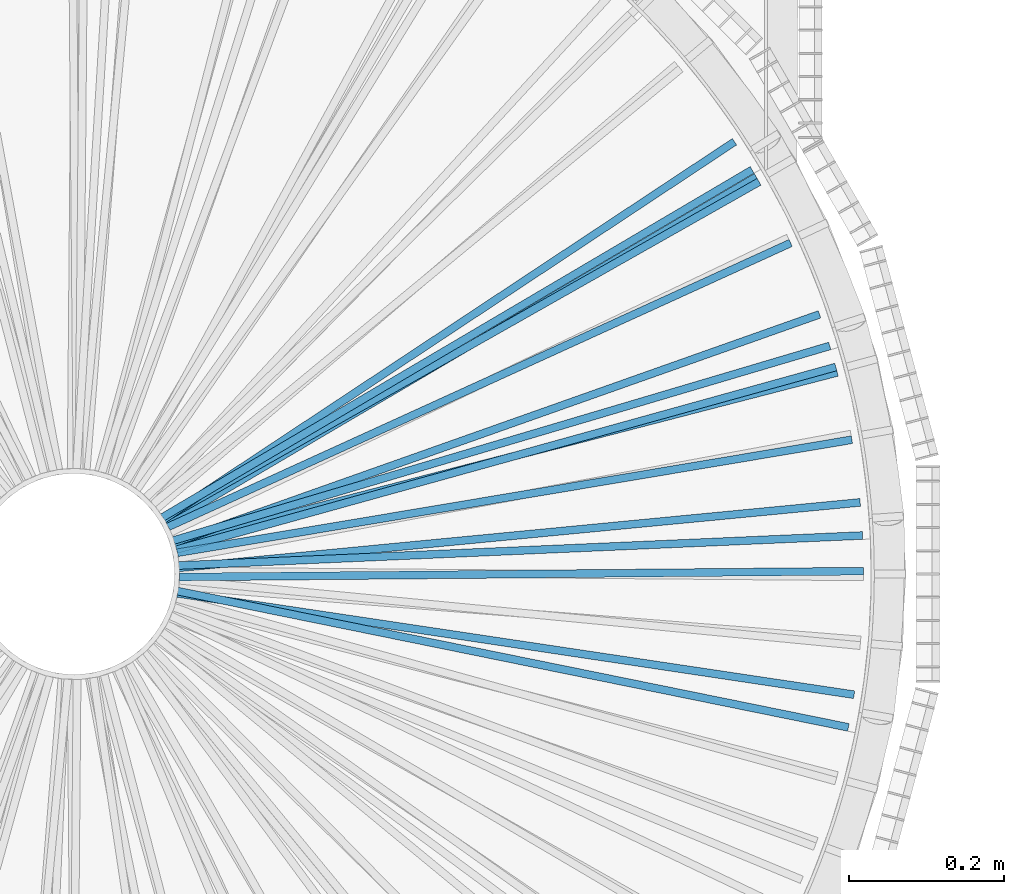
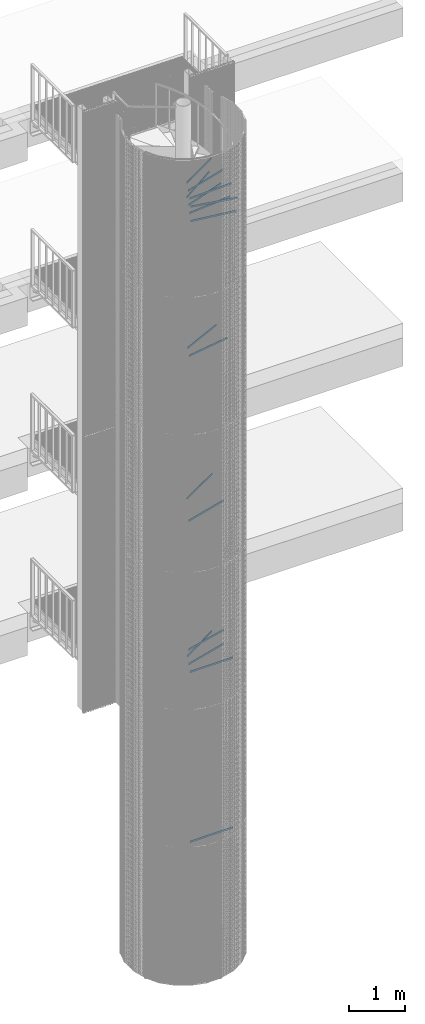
# One storey, part 315 of 1183: 17 beams, 4 elements without a shape of their own.
"""IFC2X3 building model written with IfcOpenShell, lengths in millimetres."""

from ifc_helpers import new_model, si_unit, frame, origin_with_axes, origin_2d_with_axis, place, context, subcontext, project, spatial, polyline, rectangle, outline, extrude, boolean, material, type_object, element, aggregate, save


model = new_model("IFC2X3")

# Units and contexts
model_context = context("Model", 3, precision=1e-05, world=origin_with_axes())
body_context = subcontext(model_context, "Body", "Model", "MODEL_VIEW")
ifc_project = project(units=[si_unit("LENGTHUNIT", "METRE", prefix="MILLI"), si_unit("AREAUNIT", "SQUARE_METRE"), si_unit("VOLUMEUNIT", "CUBIC_METRE"), si_unit("MASSUNIT", "GRAM", prefix="KILO"), si_unit("TIMEUNIT", "SECOND"), si_unit("PLANEANGLEUNIT", "RADIAN"), si_unit("SOLIDANGLEUNIT", "STERADIAN"), si_unit("THERMODYNAMICTEMPERATUREUNIT", "DEGREE_CELSIUS"), si_unit("LUMINOUSINTENSITYUNIT", "LUMEN")], contexts=[model_context])

# Site, building, storey
site_placement = place(None, origin_with_axes())
site = spatial("IfcSite", under=ifc_project, at=site_placement, Name="Undefined", CompositionType="ELEMENT")
building_placement = place(site_placement, origin_with_axes())
building = spatial("IfcBuilding", under=site, at=building_placement, Name="Undefined", CompositionType="ELEMENT")
storey_placement = place(building_placement, origin_with_axes())
storey = spatial("IfcBuildingStorey", under=building, at=storey_placement, Name="Undefined", CompositionType="ELEMENT", Elevation=0.0)

# Assembly, beams
assembly_1_placement = place(storey_placement, origin_with_axes())
assembly_1 = element("IfcElementAssembly", 1, at=assembly_1_placement, inside=storey, Name="POTEAU", AssemblyPlace="NOTDEFINED", PredefinedType="NOTDEFINED")
ifc_material = material(Name="STEEL/S235JR")
beam_type = type_object("IfcBeamType", Name="PL10*40", PredefinedType="NOTDEFINED")
beam_1_placement = place(assembly_1_placement, frame((82.1984248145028, 17.584512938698, 9283.36000000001), z_axis=(0.0, 0.0, 1.0), x_axis=(0.963699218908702, 0.266990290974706, 0.0)))
beam_1 = element("IfcBeam", 2, at=beam_1_placement, type_object=beam_type, material=ifc_material, Name="RAIDISSEUR", context=body_context, shape_type="CSG", body=[
    boolean("DIFFERENCE", extrude(rectangle(XDim=10.0, YDim=40.0, at=origin_2d_with_axis()), frame((935.982964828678, -2.59787459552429e-14, -3.63797880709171e-12), z_axis=(-1.0, 0.0, 0.0), x_axis=(0.0, -1.0, 0.0)), (0.0, 0.0, 1.0), 935.98), extrude(outline(polyline([(0.0, 0.0), (30.5663019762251, -4.91127138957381e-11), (60.366242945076, 6.80164206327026), (87.9055294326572, 20.0638634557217), (111.803226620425, 39.1216410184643), (130.861004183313, 63.0193382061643), (144.123225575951, 90.5586246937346), (150.9248676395, 120.358565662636), (150.924867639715, 150.924867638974), (144.123225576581, 180.724808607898), (130.86100418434, 208.264095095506), (111.803226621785, 232.161792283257), (87.9055294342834, 251.219569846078), (60.3662429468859, 264.481791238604), (30.5663019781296, 271.283433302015), (1.90266291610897e-09, 271.28343330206), (-29.7999409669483, 264.481791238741), (-57.3392274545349, 251.219569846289), (-81.2369246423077, 232.161792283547), (-100.294702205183, 208.26409509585), (-113.556923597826, 180.724808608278), (-120.35856566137, 150.92486763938), (-120.358565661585, 120.358565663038), (-113.556923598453, 90.5586246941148), (-100.294702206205, 63.0193382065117), (-81.2369246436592, 39.1216410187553), (-57.3392274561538, 20.0638634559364), (-29.7999409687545, 6.80164206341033), (0.0, 0.0)])), frame((-214.504930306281, 44.7123538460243, -22.5), z_axis=(0.0, 0.0, 1.0), x_axis=(-0.181982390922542, -0.983301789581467, 0.0)), (0.0, 0.0, 1.0), 45.0)),
])
beam_2_placement = place(assembly_1_placement, frame((70.5571919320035, 45.6889352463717, 9752.92000000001), z_axis=(0.0, 0.0, 1.0), x_axis=(0.870228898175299, 0.492647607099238, 0.0)))
beam_2 = element("IfcBeam", 3, at=beam_2_placement, type_object=beam_type, material=ifc_material, Name="RAIDISSEUR", context=body_context, shape_type="CSG", body=[
    boolean("DIFFERENCE", extrude(rectangle(XDim=10.0, YDim=40.0, at=origin_2d_with_axis()), frame((935.982964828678, -2.59787459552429e-14, -3.63797880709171e-12), z_axis=(-1.0, 0.0, 0.0), x_axis=(0.0, -1.0, 0.0)), (0.0, 0.0, 1.0), 935.98), extrude(outline(polyline([(0.0, 0.0), (30.5663019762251, -4.91127138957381e-11), (60.366242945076, 6.80164206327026), (87.9055294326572, 20.0638634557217), (111.803226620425, 39.1216410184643), (130.861004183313, 63.0193382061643), (144.123225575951, 90.5586246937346), (150.9248676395, 120.358565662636), (150.924867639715, 150.924867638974), (144.123225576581, 180.724808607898), (130.86100418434, 208.264095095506), (111.803226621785, 232.161792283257), (87.9055294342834, 251.219569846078), (60.3662429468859, 264.481791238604), (30.5663019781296, 271.283433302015), (1.90266291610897e-09, 271.28343330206), (-29.7999409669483, 264.481791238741), (-57.3392274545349, 251.219569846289), (-81.2369246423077, 232.161792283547), (-100.294702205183, 208.26409509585), (-113.556923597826, 180.724808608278), (-120.35856566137, 150.92486763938), (-120.358565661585, 120.358565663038), (-113.556923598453, 90.5586246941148), (-100.294702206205, 63.0193382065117), (-81.2369246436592, 39.1216410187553), (-57.3392274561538, 20.0638634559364), (-29.7999409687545, 6.80164206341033), (0.0, 0.0)])), frame((-200.98227636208, 65.186920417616, -22.5), z_axis=(0.0, 0.0, 1.0), x_axis=(-0.414927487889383, -0.909854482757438, 0.0)), (0.0, 0.0, 1.0), 45.0)),
])
aggregate(assembly_1, [beam_1, beam_2])

assembly_2_placement = place(storey_placement, origin_with_axes())
assembly_2 = element("IfcElementAssembly", 4, at=assembly_2_placement, inside=storey, Name="POTEAU", AssemblyPlace="NOTDEFINED", PredefinedType="NOTDEFINED")
beam_3_placement = place(assembly_2_placement, frame((79.978180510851, 25.8705774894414, 6465.84000000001), z_axis=(0.0, 0.0, 1.0), x_axis=(0.968083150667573, 0.250629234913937, 0.0)))
beam_3 = element("IfcBeam", 5, at=beam_3_placement, type_object=beam_type, material=ifc_material, Name="RAIDISSEUR", context=body_context, shape_type="CSG", body=[
    boolean("DIFFERENCE", extrude(rectangle(XDim=10.0, YDim=40.0, at=origin_2d_with_axis()), frame((935.982964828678, -2.59787459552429e-14, -3.63797880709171e-12), z_axis=(-1.0, 0.0, 0.0), x_axis=(0.0, -1.0, 0.0)), (0.0, 0.0, 1.0), 935.98), extrude(outline(polyline([(0.0, 0.0), (30.5663019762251, -4.91127138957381e-11), (60.366242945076, 6.80164206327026), (87.9055294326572, 20.0638634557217), (111.803226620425, 39.1216410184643), (130.861004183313, 63.0193382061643), (144.123225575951, 90.5586246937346), (150.9248676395, 120.358565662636), (150.924867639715, 150.924867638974), (144.123225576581, 180.724808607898), (130.86100418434, 208.264095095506), (111.803226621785, 232.161792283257), (87.9055294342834, 251.219569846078), (60.3662429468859, 264.481791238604), (30.5663019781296, 271.283433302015), (1.90266291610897e-09, 271.28343330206), (-29.7999409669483, 264.481791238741), (-57.3392274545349, 251.219569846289), (-81.2369246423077, 232.161792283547), (-100.294702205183, 208.26409509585), (-113.556923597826, 180.724808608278), (-120.35856566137, 150.92486763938), (-120.358565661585, 120.358565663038), (-113.556923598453, 90.5586246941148), (-100.294702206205, 63.0193382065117), (-81.2369246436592, 39.1216410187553), (-57.3392274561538, 20.0638634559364), (-29.7999409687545, 6.80164206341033), (0.0, 0.0)])), frame((-215.15882831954, 32.4946825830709, -22.5), z_axis=(0.0, 0.0, 1.0), x_axis=(-0.165301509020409, -0.986243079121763, 0.0)), (0.0, 0.0, 1.0), 45.0)),
])
beam_4_placement = place(assembly_2_placement, frame((83.9487882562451, -4.28918262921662, 2293.8), z_axis=(0.0, 0.0, 1.0), x_axis=(0.99996413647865, 0.00846910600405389, 0.0)))
beam_4 = element("IfcBeam", 6, at=beam_4_placement, type_object=beam_type, material=ifc_material, Name="RAIDISSEUR", context=body_context, shape_type="CSG", body=[
    boolean("DIFFERENCE", extrude(rectangle(XDim=10.0, YDim=40.0, at=origin_2d_with_axis()), frame((935.982964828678, -2.59787459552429e-14, -3.63797880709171e-12), z_axis=(-1.0, 0.0, 0.0), x_axis=(0.0, -1.0, 0.0)), (0.0, 0.0, 1.0), 935.98), extrude(outline(polyline([(0.0, 0.0), (30.5663019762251, -4.91127138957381e-11), (60.366242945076, 6.80164206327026), (87.9055294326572, 20.0638634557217), (111.803226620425, 39.1216410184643), (130.861004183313, 63.0193382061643), (144.123225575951, 90.5586246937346), (150.9248676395, 120.358565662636), (150.924867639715, 150.924867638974), (144.123225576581, 180.724808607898), (130.86100418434, 208.264095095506), (111.803226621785, 232.161792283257), (87.9055294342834, 251.219569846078), (60.3662429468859, 264.481791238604), (30.5663019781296, 271.283433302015), (1.90266291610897e-09, 271.28343330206), (-29.7999409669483, 264.481791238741), (-57.3392274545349, 251.219569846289), (-81.2369246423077, 232.161792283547), (-100.294702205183, 208.26409509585), (-113.556923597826, 180.724808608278), (-120.35856566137, 150.92486763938), (-120.358565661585, 120.358565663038), (-113.556923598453, 90.5586246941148), (-100.294702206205, 63.0193382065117), (-81.2369246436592, 39.1216410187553), (-57.3392274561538, 20.0638634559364), (-29.7999409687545, 6.80164206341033), (0.0, 0.0)])), frame((-220.333310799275, 9.55859125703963, -22.5000000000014), z_axis=(0.0, 0.0, 1.0), x_axis=(0.0787157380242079, -0.996897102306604, 0.0)), (0.0, 0.0, 1.0), 45.0)),
])
beam_5_placement = place(assembly_2_placement, frame((83.9487882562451, -4.28918262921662, 6002.28000000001), z_axis=(0.0, 0.0, 1.0), x_axis=(0.99996413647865, 0.00846910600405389, 0.0)))
beam_5 = element("IfcBeam", 7, at=beam_5_placement, type_object=beam_type, material=ifc_material, Name="RAIDISSEUR", context=body_context, shape_type="CSG", body=[
    boolean("DIFFERENCE", extrude(rectangle(XDim=10.0, YDim=40.0, at=origin_2d_with_axis()), frame((935.982964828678, -2.59787459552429e-14, -3.63797880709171e-12), z_axis=(-1.0, 0.0, 0.0), x_axis=(0.0, -1.0, 0.0)), (0.0, 0.0, 1.0), 935.98), extrude(outline(polyline([(0.0, 0.0), (30.5663019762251, -4.91127138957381e-11), (60.366242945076, 6.80164206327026), (87.9055294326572, 20.0638634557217), (111.803226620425, 39.1216410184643), (130.861004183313, 63.0193382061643), (144.123225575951, 90.5586246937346), (150.9248676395, 120.358565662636), (150.924867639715, 150.924867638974), (144.123225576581, 180.724808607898), (130.86100418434, 208.264095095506), (111.803226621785, 232.161792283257), (87.9055294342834, 251.219569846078), (60.3662429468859, 264.481791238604), (30.5663019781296, 271.283433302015), (1.90266291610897e-09, 271.28343330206), (-29.7999409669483, 264.481791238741), (-57.3392274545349, 251.219569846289), (-81.2369246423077, 232.161792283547), (-100.294702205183, 208.26409509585), (-113.556923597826, 180.724808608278), (-120.35856566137, 150.92486763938), (-120.358565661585, 120.358565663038), (-113.556923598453, 90.5586246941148), (-100.294702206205, 63.0193382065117), (-81.2369246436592, 39.1216410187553), (-57.3392274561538, 20.0638634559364), (-29.7999409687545, 6.80164206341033), (0.0, 0.0)])), frame((-220.333310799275, 9.55859125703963, -22.5000000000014), z_axis=(0.0, 0.0, 1.0), x_axis=(0.0787157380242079, -0.996897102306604, 0.0)), (0.0, 0.0, 1.0), 45.0)),
])
beam_6_placement = place(assembly_2_placement, frame((74.8463745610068, 38.2598530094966, 6311.32000000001), z_axis=(0.0, 0.0, 1.0), x_axis=(0.861759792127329, 0.507316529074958, 0.0)))
beam_6 = element("IfcBeam", 8, at=beam_6_placement, type_object=beam_type, material=ifc_material, Name="RAIDISSEUR", context=body_context, shape_type="CSG", body=[
    boolean("DIFFERENCE", extrude(rectangle(XDim=10.0, YDim=40.0, at=origin_2d_with_axis()), frame((935.982964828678, -2.59787459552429e-14, -3.63797880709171e-12), z_axis=(-1.0, 0.0, 0.0), x_axis=(0.0, -1.0, 0.0)), (0.0, 0.0, 1.0), 935.98), extrude(outline(polyline([(0.0, 0.0), (30.5663019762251, -4.91127138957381e-11), (60.366242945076, 6.80164206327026), (87.9055294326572, 20.0638634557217), (111.803226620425, 39.1216410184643), (130.861004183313, 63.0193382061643), (144.123225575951, 90.5586246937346), (150.9248676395, 120.358565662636), (150.924867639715, 150.924867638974), (144.123225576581, 180.724808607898), (130.86100418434, 208.264095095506), (111.803226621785, 232.161792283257), (87.9055294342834, 251.219569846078), (60.3662429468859, 264.481791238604), (30.5663019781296, 271.283433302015), (1.90266291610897e-09, 271.28343330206), (-29.7999409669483, 264.481791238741), (-57.3392274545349, 251.219569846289), (-81.2369246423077, 232.161792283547), (-100.294702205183, 208.26409509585), (-113.556923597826, 180.724808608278), (-120.35856566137, 150.92486763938), (-120.358565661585, 120.358565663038), (-113.556923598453, 90.5586246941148), (-100.294702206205, 63.0193382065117), (-81.2369246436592, 39.1216410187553), (-57.3392274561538, 20.0638634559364), (-29.7999409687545, 6.80164206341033), (0.0, 0.0)])), frame((-199.776683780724, 77.1597851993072, -22.4999999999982), z_axis=(0.0, 0.0, 1.0), x_axis=(-0.430278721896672, -0.902696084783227, 0.0)), (0.0, 0.0, 1.0), 45.0)),
])
beam_7_placement = place(assembly_2_placement, frame((82.1984248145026, 17.5845129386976, 6156.80000000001), z_axis=(0.0, 0.0, 1.0), x_axis=(0.963699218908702, 0.266990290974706, 0.0)))
beam_7 = element("IfcBeam", 9, at=beam_7_placement, type_object=beam_type, material=ifc_material, Name="RAIDISSEUR", context=body_context, shape_type="CSG", body=[
    boolean("DIFFERENCE", extrude(rectangle(XDim=10.0, YDim=40.0, at=origin_2d_with_axis()), frame((935.982964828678, -2.59787459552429e-14, -3.63797880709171e-12), z_axis=(-1.0, 0.0, 0.0), x_axis=(0.0, -1.0, 0.0)), (0.0, 0.0, 1.0), 935.98), extrude(outline(polyline([(0.0, 0.0), (30.5663019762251, -4.91127138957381e-11), (60.366242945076, 6.80164206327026), (87.9055294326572, 20.0638634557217), (111.803226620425, 39.1216410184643), (130.861004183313, 63.0193382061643), (144.123225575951, 90.5586246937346), (150.9248676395, 120.358565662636), (150.924867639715, 150.924867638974), (144.123225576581, 180.724808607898), (130.86100418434, 208.264095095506), (111.803226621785, 232.161792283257), (87.9055294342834, 251.219569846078), (60.3662429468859, 264.481791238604), (30.5663019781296, 271.283433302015), (1.90266291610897e-09, 271.28343330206), (-29.7999409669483, 264.481791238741), (-57.3392274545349, 251.219569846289), (-81.2369246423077, 232.161792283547), (-100.294702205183, 208.26409509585), (-113.556923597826, 180.724808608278), (-120.35856566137, 150.92486763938), (-120.358565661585, 120.358565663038), (-113.556923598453, 90.5586246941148), (-100.294702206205, 63.0193382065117), (-81.2369246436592, 39.1216410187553), (-57.3392274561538, 20.0638634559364), (-29.7999409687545, 6.80164206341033), (0.0, 0.0)])), frame((-214.504930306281, 44.7123538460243, -22.5), z_axis=(0.0, 0.0, 1.0), x_axis=(-0.181982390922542, -0.983301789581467, 0.0)), (0.0, 0.0, 1.0), 45.0)),
])
aggregate(assembly_2, [beam_3, beam_4, beam_5, beam_6, beam_7])

assembly_3_placement = place(storey_placement, origin_with_axes())
assembly_3 = element("IfcElementAssembly", 10, at=assembly_3_placement, inside=storey, Name="POTEAU", AssemblyPlace="NOTDEFINED", PredefinedType="NOTDEFINED")
beam_8_placement = place(assembly_3_placement, frame((82.2442633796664, -17.3688594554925, 15857.28), z_axis=(0.0, 0.0, 1.0), x_axis=(0.988977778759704, -0.148064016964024, 0.0)))
beam_8 = element("IfcBeam", 11, at=beam_8_placement, type_object=beam_type, material=ifc_material, Name="RAIDISSEUR", context=body_context, shape_type="CSG", body=[
    boolean("DIFFERENCE", extrude(rectangle(XDim=10.0, YDim=40.0, at=origin_2d_with_axis()), frame((935.982964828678, -2.59787459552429e-14, -3.63797880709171e-12), z_axis=(-1.0, 0.0, 0.0), x_axis=(0.0, -1.0, 0.0)), (0.0, 0.0, 1.0), 935.98), extrude(outline(polyline([(0.0, 0.0), (30.5663019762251, -4.91127138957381e-11), (60.366242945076, 6.80164206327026), (87.9055294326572, 20.0638634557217), (111.803226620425, 39.1216410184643), (130.861004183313, 63.0193382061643), (144.123225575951, 90.5586246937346), (150.9248676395, 120.358565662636), (150.924867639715, 150.924867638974), (144.123225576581, 180.724808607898), (130.86100418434, 208.264095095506), (111.803226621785, 232.161792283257), (87.9055294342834, 251.219569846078), (60.3662429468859, 264.481791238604), (30.5663019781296, 271.283433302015), (1.90266291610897e-09, 271.28343330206), (-29.7999409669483, 264.481791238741), (-57.3392274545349, 251.219569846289), (-81.2369246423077, 232.161792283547), (-100.294702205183, 208.26409509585), (-113.556923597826, 180.724808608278), (-120.35856566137, 150.92486763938), (-120.358565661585, 120.358565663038), (-113.556923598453, 90.5586246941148), (-100.294702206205, 63.0193382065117), (-81.2369246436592, 39.1216410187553), (-57.3392274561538, 20.0638634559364), (-29.7999409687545, 6.80164206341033), (0.0, 0.0)])), frame((-219.366827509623, -11.8389258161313, -22.5000000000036), z_axis=(0.0, 0.0, 1.0), x_axis=(0.233695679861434, -0.972309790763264, 0.0)), (0.0, 0.0, 1.0), 45.0)),
])
beam_9_placement = place(assembly_3_placement, frame((72.7414342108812, 42.1245757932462, 16326.84), z_axis=(0.0, 0.0, 1.0), x_axis=(0.83402788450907, 0.551722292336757, 0.0)))
beam_9 = element("IfcBeam", 12, at=beam_9_placement, type_object=beam_type, material=ifc_material, Name="RAIDISSEUR", context=body_context, shape_type="CSG", body=[
    boolean("DIFFERENCE", extrude(rectangle(XDim=10.0, YDim=40.0, at=origin_2d_with_axis()), frame((935.982964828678, -2.59787459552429e-14, -3.63797880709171e-12), z_axis=(-1.0, 0.0, 0.0), x_axis=(0.0, -1.0, 0.0)), (0.0, 0.0, 1.0), 935.98), extrude(outline(polyline([(0.0, 0.0), (30.5663019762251, -4.91127138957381e-11), (60.366242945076, 6.80164206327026), (87.9055294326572, 20.0638634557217), (111.803226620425, 39.1216410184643), (130.861004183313, 63.0193382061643), (144.123225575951, 90.5586246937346), (150.9248676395, 120.358565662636), (150.924867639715, 150.924867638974), (144.123225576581, 180.724808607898), (130.86100418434, 208.264095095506), (111.803226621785, 232.161792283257), (87.9055294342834, 251.219569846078), (60.3662429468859, 264.481791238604), (30.5663019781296, 271.283433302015), (1.90266291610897e-09, 271.28343330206), (-29.7999409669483, 264.481791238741), (-57.3392274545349, 251.219569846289), (-81.2369246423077, 232.161792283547), (-100.294702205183, 208.26409509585), (-113.556923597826, 180.724808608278), (-120.35856566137, 150.92486763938), (-120.358565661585, 120.358565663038), (-113.556923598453, 90.5586246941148), (-100.294702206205, 63.0193382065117), (-81.2369246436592, 39.1216410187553), (-57.3392274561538, 20.0638634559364), (-29.7999409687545, 6.80164206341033), (0.0, 0.0)])), frame((-195.841340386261, 83.124915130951, -22.5), z_axis=(0.0, 0.0, 1.0), x_axis=(-0.476932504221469, -0.878939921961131, 0.0)), (0.0, 0.0, 1.0), 45.0)),
])
beam_10_placement = place(assembly_3_placement, frame((79.0265898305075, 28.6460160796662, 16483.36), z_axis=(0.0, 0.0, 1.0), x_axis=(0.958746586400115, 0.284262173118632, 0.0)))
beam_10 = element("IfcBeam", 13, at=beam_10_placement, type_object=beam_type, material=ifc_material, Name="RAIDISSEUR", context=body_context, shape_type="CSG", body=[
    boolean("DIFFERENCE", extrude(rectangle(XDim=10.0, YDim=40.0, at=origin_2d_with_axis()), frame((935.982964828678, -2.59787459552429e-14, -3.63797880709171e-12), z_axis=(-1.0, 0.0, 0.0), x_axis=(0.0, -1.0, 0.0)), (0.0, 0.0, 1.0), 935.98), extrude(outline(polyline([(0.0, 0.0), (30.5663019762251, -4.91127138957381e-11), (60.366242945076, 6.80164206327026), (87.9055294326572, 20.0638634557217), (111.803226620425, 39.1216410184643), (130.861004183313, 63.0193382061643), (144.123225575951, 90.5586246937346), (150.9248676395, 120.358565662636), (150.924867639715, 150.924867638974), (144.123225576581, 180.724808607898), (130.86100418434, 208.264095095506), (111.803226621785, 232.161792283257), (87.9055294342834, 251.219569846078), (60.3662429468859, 264.481791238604), (30.5663019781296, 271.283433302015), (1.90266291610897e-09, 271.28343330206), (-29.7999409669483, 264.481791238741), (-57.3392274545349, 251.219569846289), (-81.2369246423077, 232.161792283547), (-100.294702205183, 208.26409509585), (-113.556923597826, 180.724808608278), (-120.35856566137, 150.92486763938), (-120.358565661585, 120.358565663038), (-113.556923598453, 90.5586246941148), (-100.294702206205, 63.0193382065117), (-81.2369246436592, 39.1216410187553), (-57.3392274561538, 20.0638634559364), (-29.7999409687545, 6.80164206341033), (0.0, 0.0)])), frame((-213.770329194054, 37.052379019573, -22.5), z_axis=(0.0, 0.0, 1.0), x_axis=(-0.199620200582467, -0.979873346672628, 0.0)), (0.0, 0.0, 1.0), 45.0)),
])
beam_11_placement = place(assembly_3_placement, frame((83.6092608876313, 8.67684456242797, 16326.84), z_axis=(0.0, 0.0, 1.0), x_axis=(0.999036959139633, 0.0438765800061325, 0.0)))
beam_11 = element("IfcBeam", 14, at=beam_11_placement, type_object=beam_type, material=ifc_material, Name="RAIDISSEUR", context=body_context, shape_type="CSG", body=[
    boolean("DIFFERENCE", extrude(rectangle(XDim=10.0, YDim=40.0, at=origin_2d_with_axis()), frame((935.982964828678, -2.59787459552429e-14, -3.63797880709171e-12), z_axis=(-1.0, 0.0, 0.0), x_axis=(0.0, -1.0, 0.0)), (0.0, 0.0, 1.0), 935.98), extrude(outline(polyline([(0.0, 0.0), (30.5663019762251, -4.91127138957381e-11), (60.366242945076, 6.80164206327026), (87.9055294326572, 20.0638634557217), (111.803226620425, 39.1216410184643), (130.861004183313, 63.0193382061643), (144.123225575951, 90.5586246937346), (150.9248676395, 120.358565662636), (150.924867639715, 150.924867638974), (144.123225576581, 180.724808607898), (130.86100418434, 208.264095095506), (111.803226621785, 232.161792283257), (87.9055294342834, 251.219569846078), (60.3662429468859, 264.481791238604), (30.5663019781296, 271.283433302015), (1.90266291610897e-09, 271.28343330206), (-29.7999409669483, 264.481791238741), (-57.3392274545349, 251.219569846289), (-81.2369246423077, 232.161792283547), (-100.294702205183, 208.26409509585), (-113.556923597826, 180.724808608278), (-120.35856566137, 150.92486763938), (-120.358565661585, 120.358565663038), (-113.556923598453, 90.5586246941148), (-100.294702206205, 63.0193382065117), (-81.2369246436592, 39.1216410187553), (-57.3392274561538, 20.0638634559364), (-29.7999409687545, 6.80164206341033), (0.0, 0.0)])), frame((-220.08629739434, 4.3870540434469, -22.4999999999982), z_axis=(0.0, 0.0, 1.0), x_axis=(0.0433621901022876, -0.999059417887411, 0.0)), (0.0, 0.0, 1.0), 45.0)),
])
beam_12_placement = place(assembly_3_placement, frame((80.7715599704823, 23.2755502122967, 16170.32), z_axis=(0.0, 0.0, 1.0), x_axis=(0.942727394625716, 0.333564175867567, 0.0)))
beam_12 = element("IfcBeam", 15, at=beam_12_placement, type_object=beam_type, material=ifc_material, Name="RAIDISSEUR", context=body_context, shape_type="CSG", body=[
    boolean("DIFFERENCE", extrude(rectangle(XDim=10.0, YDim=40.0, at=origin_2d_with_axis()), frame((935.982964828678, -2.59787459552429e-14, -3.63797880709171e-12), z_axis=(-1.0, 0.0, 0.0), x_axis=(0.0, -1.0, 0.0)), (0.0, 0.0, 1.0), 935.98), extrude(outline(polyline([(0.0, 0.0), (30.5663019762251, -4.91127138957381e-11), (60.366242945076, 6.80164206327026), (87.9055294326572, 20.0638634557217), (111.803226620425, 39.1216410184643), (130.861004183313, 63.0193382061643), (144.123225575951, 90.5586246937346), (150.9248676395, 120.358565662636), (150.924867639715, 150.924867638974), (144.123225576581, 180.724808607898), (130.86100418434, 208.264095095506), (111.803226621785, 232.161792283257), (87.9055294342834, 251.219569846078), (60.3662429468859, 264.481791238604), (30.5663019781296, 271.283433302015), (1.90266291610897e-09, 271.28343330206), (-29.7999409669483, 264.481791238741), (-57.3392274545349, 251.219569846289), (-81.2369246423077, 232.161792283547), (-100.294702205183, 208.26409509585), (-113.556923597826, 180.724808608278), (-120.35856566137, 150.92486763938), (-120.358565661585, 120.358565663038), (-113.556923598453, 90.5586246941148), (-100.294702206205, 63.0193382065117), (-81.2369246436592, 39.1216410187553), (-57.3392274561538, 20.0638634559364), (-29.7999409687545, 6.80164206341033), (0.0, 0.0)])), frame((-211.416612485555, 53.7254967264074, -22.4999999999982), z_axis=(0.0, 0.0, 1.0), x_axis=(-0.250130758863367, -0.968212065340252, 0.0)), (0.0, 0.0, 1.0), 45.0)),
])
beam_13_placement = place(assembly_3_placement, frame((69.74906386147, 46.9133693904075, 16639.88), z_axis=(0.0, 0.0, 1.0), x_axis=(0.861498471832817, 0.507760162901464, 0.0)))
beam_13 = element("IfcBeam", 16, at=beam_13_placement, type_object=beam_type, material=ifc_material, Name="RAIDISSEUR", context=body_context, shape_type="CSG", body=[
    boolean("DIFFERENCE", extrude(rectangle(XDim=10.0, YDim=40.0, at=origin_2d_with_axis()), frame((935.982964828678, -2.59787459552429e-14, -3.63797880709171e-12), z_axis=(-1.0, 0.0, 0.0), x_axis=(0.0, -1.0, 0.0)), (0.0, 0.0, 1.0), 935.98), extrude(outline(polyline([(0.0, 0.0), (30.5663019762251, -4.91127138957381e-11), (60.366242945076, 6.80164206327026), (87.9055294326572, 20.0638634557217), (111.803226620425, 39.1216410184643), (130.861004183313, 63.0193382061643), (144.123225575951, 90.5586246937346), (150.9248676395, 120.358565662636), (150.924867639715, 150.924867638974), (144.123225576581, 180.724808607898), (130.86100418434, 208.264095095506), (111.803226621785, 232.161792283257), (87.9055294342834, 251.219569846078), (60.3662429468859, 264.481791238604), (30.5663019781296, 271.283433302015), (1.90266291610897e-09, 271.28343330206), (-29.7999409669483, 264.481791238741), (-57.3392274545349, 251.219569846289), (-81.2369246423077, 232.161792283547), (-100.294702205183, 208.26409509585), (-113.556923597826, 180.724808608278), (-120.35856566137, 150.92486763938), (-120.358565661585, 120.358565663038), (-113.556923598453, 90.5586246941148), (-100.294702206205, 63.0193382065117), (-81.2369246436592, 39.1216410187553), (-57.3392274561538, 20.0638634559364), (-29.7999409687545, 6.80164206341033), (0.0, 0.0)])), frame((-199.739514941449, 67.2194331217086, -22.5), z_axis=(0.0, 0.0, 1.0), x_axis=(-0.430743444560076, -0.902474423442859, 0.0)), (0.0, 0.0, 1.0), 45.0)),
])
beam_14_placement = place(assembly_3_placement, frame((84.003164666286, 3.04375799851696, 16013.8), z_axis=(0.0, 0.0, 1.0), x_axis=(0.995420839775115, 0.0955894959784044, 0.0)))
beam_14 = element("IfcBeam", 17, at=beam_14_placement, type_object=beam_type, material=ifc_material, Name="RAIDISSEUR", context=body_context, shape_type="CSG", body=[
    boolean("DIFFERENCE", extrude(rectangle(XDim=10.0, YDim=40.0, at=origin_2d_with_axis()), frame((935.982964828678, -2.59787459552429e-14, -3.63797880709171e-12), z_axis=(-1.0, 0.0, 0.0), x_axis=(0.0, -1.0, 0.0)), (0.0, 0.0, 1.0), 935.98), extrude(outline(polyline([(0.0, 0.0), (30.5663019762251, -4.91127138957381e-11), (60.366242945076, 6.80164206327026), (87.9055294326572, 20.0638634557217), (111.803226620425, 39.1216410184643), (130.861004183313, 63.0193382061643), (144.123225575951, 90.5586246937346), (150.9248676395, 120.358565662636), (150.924867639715, 150.924867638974), (144.123225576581, 180.724808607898), (130.86100418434, 208.264095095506), (111.803226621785, 232.161792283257), (87.9055294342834, 251.219569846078), (60.3662429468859, 264.481791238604), (30.5663019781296, 271.283433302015), (1.90266291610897e-09, 271.28343330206), (-29.7999409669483, 264.481791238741), (-57.3392274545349, 251.219569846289), (-81.2369246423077, 232.161792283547), (-100.294702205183, 208.26409509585), (-113.556923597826, 180.724808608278), (-120.35856566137, 150.92486763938), (-120.358565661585, 120.358565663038), (-113.556923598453, 90.5586246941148), (-100.294702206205, 63.0193382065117), (-81.2369246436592, 39.1216410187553), (-57.3392274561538, 20.0638634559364), (-29.7999409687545, 6.80164206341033), (0.0, 0.0)])), frame((-219.416869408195, 21.431367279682, -22.5), z_axis=(0.0, 0.0, 1.0), x_axis=(-0.00846910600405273, -0.99996413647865, 0.0)), (0.0, 0.0, 1.0), 45.0)),
])
beam_15_placement = place(assembly_3_placement, frame((83.2248271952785, -11.8078056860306, 16170.32), z_axis=(0.0, 0.0, 1.0), x_axis=(0.979975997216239, -0.199115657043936, 0.0)))
beam_15 = element("IfcBeam", 18, at=beam_15_placement, type_object=beam_type, material=ifc_material, Name="RAIDISSEUR", context=body_context, shape_type="CSG", body=[
    boolean("DIFFERENCE", extrude(rectangle(XDim=10.0, YDim=40.0, at=origin_2d_with_axis()), frame((935.982964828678, -2.59787459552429e-14, -3.63797880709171e-12), z_axis=(-1.0, 0.0, 0.0), x_axis=(0.0, -1.0, 0.0)), (0.0, 0.0, 1.0), 935.98), extrude(outline(polyline([(0.0, 0.0), (30.5663019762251, -4.91127138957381e-11), (60.366242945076, 6.80164206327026), (87.9055294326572, 20.0638634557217), (111.803226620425, 39.1216410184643), (130.861004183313, 63.0193382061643), (144.123225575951, 90.5586246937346), (150.9248676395, 120.358565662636), (150.924867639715, 150.924867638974), (144.123225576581, 180.724808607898), (130.86100418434, 208.264095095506), (111.803226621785, 232.161792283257), (87.9055294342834, 251.219569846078), (60.3662429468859, 264.481791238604), (30.5663019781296, 271.283433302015), (1.90266291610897e-09, 271.28343330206), (-29.7999409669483, 264.481791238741), (-57.3392274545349, 251.219569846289), (-81.2369246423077, 232.161792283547), (-100.294702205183, 208.26409509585), (-113.556923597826, 180.724808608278), (-120.35856566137, 150.92486763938), (-120.358565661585, 120.358565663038), (-113.556923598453, 90.5586246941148), (-100.294702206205, 63.0193382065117), (-81.2369246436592, 39.1216410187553), (-57.3392274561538, 20.0638634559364), (-29.7999409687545, 6.80164206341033), (0.0, 0.0)])), frame((-218.312196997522, -28.8359421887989, -22.5000000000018), z_axis=(0.0, 0.0, 1.0), x_axis=(0.28376849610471, -0.95889282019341, 0.0)), (0.0, 0.0, 1.0), 45.0)),
])
aggregate(assembly_3, [beam_8, beam_9, beam_10, beam_11, beam_12, beam_13, beam_14, beam_15])

assembly_4_placement = place(storey_placement, origin_with_axes())
assembly_4 = element("IfcElementAssembly", 19, at=assembly_4_placement, inside=storey, Name="POTEAU", AssemblyPlace="NOTDEFINED", PredefinedType="NOTDEFINED")
beam_16_placement = place(assembly_4_placement, frame((74.2707535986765, 39.3656105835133, 13039.88), z_axis=(0.0, 0.0, 1.0), x_axis=(0.909854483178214, 0.414927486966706, 0.0)))
beam_16 = element("IfcBeam", 20, at=beam_16_placement, type_object=beam_type, material=ifc_material, Name="RAIDISSEUR", context=body_context, shape_type="CSG", body=[
    boolean("DIFFERENCE", extrude(rectangle(XDim=10.0, YDim=40.0, at=origin_2d_with_axis()), frame((935.982964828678, -2.59787459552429e-14, -3.63797880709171e-12), z_axis=(-1.0, 0.0, 0.0), x_axis=(0.0, -1.0, 0.0)), (0.0, 0.0, 1.0), 935.98), extrude(outline(polyline([(0.0, 0.0), (30.5663019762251, -4.91127138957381e-11), (60.366242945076, 6.80164206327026), (87.9055294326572, 20.0638634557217), (111.803226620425, 39.1216410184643), (130.861004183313, 63.0193382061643), (144.123225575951, 90.5586246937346), (150.9248676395, 120.358565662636), (150.924867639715, 150.924867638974), (144.123225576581, 180.724808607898), (130.86100418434, 208.264095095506), (111.803226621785, 232.161792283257), (87.9055294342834, 251.219569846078), (60.3662429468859, 264.481791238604), (30.5663019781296, 271.283433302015), (1.90266291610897e-09, 271.28343330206), (-29.7999409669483, 264.481791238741), (-57.3392274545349, 251.219569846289), (-81.2369246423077, 232.161792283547), (-100.294702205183, 208.26409509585), (-113.556923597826, 180.724808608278), (-120.35856566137, 150.92486763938), (-120.358565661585, 120.358565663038), (-113.556923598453, 90.5586246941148), (-100.294702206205, 63.0193382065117), (-81.2369246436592, 39.1216410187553), (-57.3392274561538, 20.0638634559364), (-29.7999409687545, 6.80164206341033), (0.0, 0.0)])), frame((-206.65397211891, 54.7162689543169, -22.5), z_axis=(0.0, 0.0, 1.0), x_axis=(-0.33404952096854, -0.942555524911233, 0.0)), (0.0, 0.0, 1.0), 45.0)),
])
beam_17_placement = place(assembly_4_placement, frame((81.9286087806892, 18.8015744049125, 12883.36), z_axis=(0.0, 0.0, 1.0), x_axis=(0.986243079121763, 0.165301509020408, 0.0)))
beam_17 = element("IfcBeam", 21, at=beam_17_placement, type_object=beam_type, material=ifc_material, Name="RAIDISSEUR", context=body_context, shape_type="CSG", body=[
    boolean("DIFFERENCE", extrude(rectangle(XDim=10.0, YDim=40.0, at=origin_2d_with_axis()), frame((935.982964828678, -2.59787459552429e-14, -3.63797880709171e-12), z_axis=(-1.0, 0.0, 0.0), x_axis=(0.0, -1.0, 0.0)), (0.0, 0.0, 1.0), 935.98), extrude(outline(polyline([(0.0, 0.0), (30.5663019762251, -4.91127138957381e-11), (60.366242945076, 6.80164206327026), (87.9055294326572, 20.0638634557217), (111.803226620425, 39.1216410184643), (130.861004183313, 63.0193382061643), (144.123225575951, 90.5586246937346), (150.9248676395, 120.358565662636), (150.924867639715, 150.924867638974), (144.123225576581, 180.724808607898), (130.86100418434, 208.264095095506), (111.803226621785, 232.161792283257), (87.9055294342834, 251.219569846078), (60.3662429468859, 264.481791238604), (30.5663019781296, 271.283433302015), (1.90266291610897e-09, 271.28343330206), (-29.7999409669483, 264.481791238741), (-57.3392274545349, 251.219569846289), (-81.2369246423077, 232.161792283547), (-100.294702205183, 208.26409509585), (-113.556923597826, 180.724808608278), (-120.35856566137, 150.92486763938), (-120.358565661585, 120.358565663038), (-113.556923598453, 90.5586246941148), (-100.294702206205, 63.0193382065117), (-81.2369246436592, 39.1216410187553), (-57.3392274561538, 20.0638634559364), (-29.7999409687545, 6.80164206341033), (0.0, 0.0)])), frame((-217.92726172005, 20.9128671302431, -22.5), z_axis=(0.0, 0.0, 1.0), x_axis=(-0.0787157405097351, -0.996897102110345, 0.0)), (0.0, 0.0, 1.0), 45.0)),
])
aggregate(assembly_4, [beam_16, beam_17])

save(model, "model.ifc")
